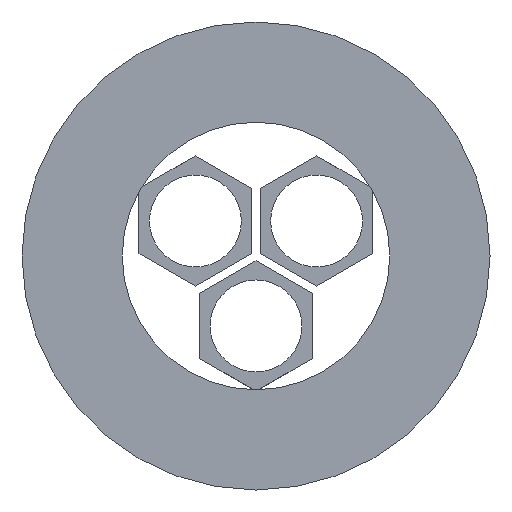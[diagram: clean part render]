
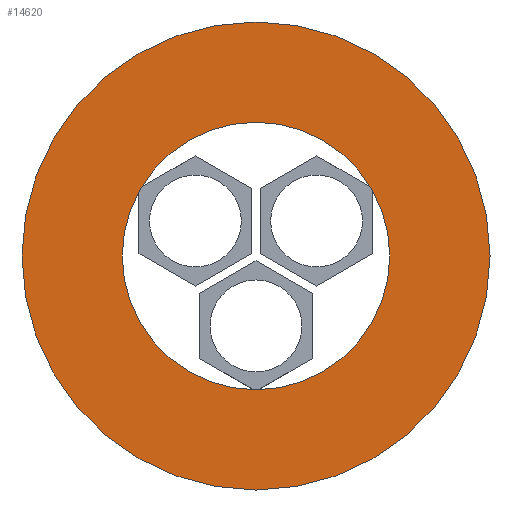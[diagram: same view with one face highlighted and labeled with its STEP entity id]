
A CAD part, front view. The second image highlights one B-rep face of the part: STEP entity #14620.
In plain terms, the highlighted planar face has unit normal (0, -1, 0).
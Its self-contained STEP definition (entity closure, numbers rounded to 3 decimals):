
#12110=CARTESIAN_POINT('',(-272.511,189.522,0.));
#12120=VERTEX_POINT('',#12110);
#12150=CARTESIAN_POINT('',(-288.511,189.522,0.));
#12160=DIRECTION('',(0.,1.,0.));
#12170=DIRECTION('',(1.,0.,0.));
#12180=AXIS2_PLACEMENT_3D('',#12150,#12160,#12170);
#12190=CIRCLE('',#12180,16.);
#12200=CARTESIAN_POINT('',(-304.511,189.522,
0.));
#12210=VERTEX_POINT('',#12200);
#12220=EDGE_CURVE('',#12120,#12210,#12190,.T.);
#14160=CARTESIAN_POINT('',(-316.511,189.522,0.));
#14170=VERTEX_POINT('',#14160);
#14200=CARTESIAN_POINT('',(-288.511,189.522,0.));
#14210=DIRECTION('',(0.,-1.,0.));
#14220=DIRECTION('',(1.,0.,0.));
#14230=AXIS2_PLACEMENT_3D('',#14200,#14210,#14220);
#14240=CIRCLE('',#14230,28.);
#14250=CARTESIAN_POINT('',(-260.511,189.522,
0.));
#14260=VERTEX_POINT('',#14250);
#14270=EDGE_CURVE('',#14170,#14260,#14240,.T.);
#14470=CARTESIAN_POINT('',(-274.511,189.522,
0.));
#14480=DIRECTION('',(0.,1.,0.));
#14490=DIRECTION('',(-1.,0.,0.));
#14500=AXIS2_PLACEMENT_3D('',#14470,#14480,#14490);
#14510=PLANE('',#14500);
#14520=EDGE_CURVE('',#14260,#14170,#14240,.T.);
#14530=ORIENTED_EDGE('',*,*,#14520,.T.);
#14540=ORIENTED_EDGE('',*,*,#14270,.T.);
#14550=EDGE_LOOP('',(#14540,#14530));
#14560=FACE_OUTER_BOUND('',#14550,.T.);
#14570=EDGE_CURVE('',#12210,#12120,#12190,.T.);
#14580=ORIENTED_EDGE('',*,*,#14570,.T.);
#14590=ORIENTED_EDGE('',*,*,#12220,.T.);
#14600=EDGE_LOOP('',(#14590,#14580));
#14610=FACE_BOUND('',#14600,.T.);
#14620=ADVANCED_FACE('',(#14560,#14610),#14510,.F.);
